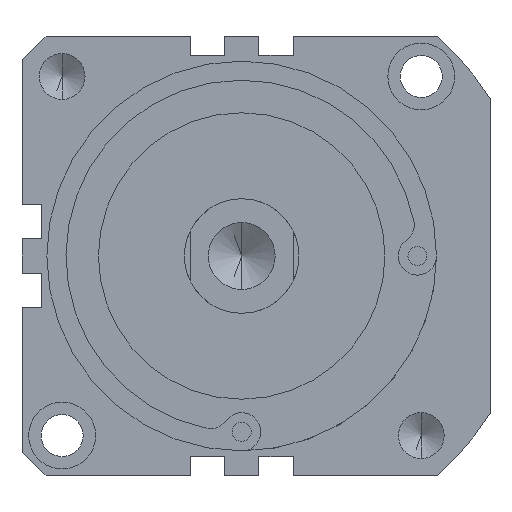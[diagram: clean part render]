
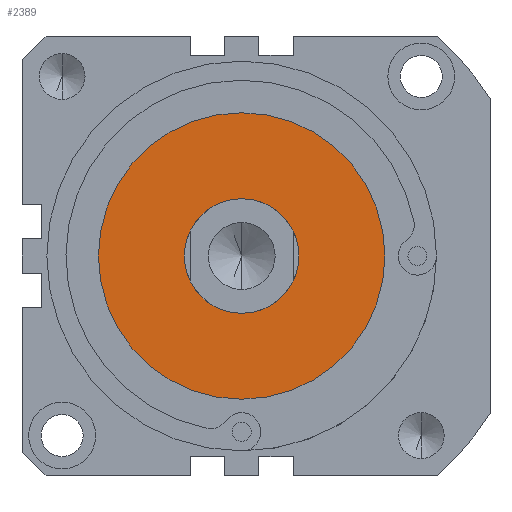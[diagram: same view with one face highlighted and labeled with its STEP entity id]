
A CAD part, front view. The second image highlights one B-rep face of the part: STEP entity #2389.
In plain terms, the highlighted planar face has unit normal (0, -1, 0).
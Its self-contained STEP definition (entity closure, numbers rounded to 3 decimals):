
#17 = AXIS2_PLACEMENT_3D ( 'NONE', #1306, #3268, #310 ) ;
#92 = FACE_BOUND ( 'NONE', #550, .T. ) ;
#186 = EDGE_LOOP ( 'NONE', ( #794, #1832 ) ) ;
#296 = DIRECTION ( 'NONE',  ( 0., 0., 1. ) ) ;
#297 = PLANE ( 'NONE',  #17 ) ;
#310 = DIRECTION ( 'NONE',  ( 0., 0., 1. ) ) ;
#345 = AXIS2_PLACEMENT_3D ( 'NONE', #3523, #1574, #296 ) ;
#460 = VERTEX_POINT ( 'NONE', #657 ) ;
#550 = EDGE_LOOP ( 'NONE', ( #739, #3338 ) ) ;
#657 = CARTESIAN_POINT ( 'NONE',  ( 0., -83., -15. ) ) ;
#739 = ORIENTED_EDGE ( 'NONE', *, *, #2145, .F. ) ;
#794 = ORIENTED_EDGE ( 'NONE', *, *, #3365, .F. ) ;
#1085 = CARTESIAN_POINT ( 'NONE',  ( 0., -83., 0. ) ) ;
#1132 = DIRECTION ( 'NONE',  ( 0., 1., 0. ) ) ;
#1225 = CIRCLE ( 'NONE', #345, 15. ) ;
#1306 = CARTESIAN_POINT ( 'NONE',  ( 0., -83., 0. ) ) ;
#1516 = EDGE_CURVE ( 'NONE', #460, #3282, #1225, .T. ) ;
#1555 = DIRECTION ( 'NONE',  ( 0., 0., 1. ) ) ;
#1574 = DIRECTION ( 'NONE',  ( 0., -1., 0. ) ) ;
#1730 = FACE_OUTER_BOUND ( 'NONE', #186, .T. ) ;
#1773 = CARTESIAN_POINT ( 'NONE',  ( 0., -83., 15. ) ) ;
#1783 = CIRCLE ( 'NONE', #2909, 37.5 ) ;
#1832 = ORIENTED_EDGE ( 'NONE', *, *, #3330, .F. ) ;
#1918 = CARTESIAN_POINT ( 'NONE',  ( 0., -83., 37.5 ) ) ;
#2034 = DIRECTION ( 'NONE',  ( 0., 0., 1. ) ) ;
#2098 = DIRECTION ( 'NONE',  ( 0., 1., 0. ) ) ;
#2145 = EDGE_CURVE ( 'NONE', #3282, #460, #2239, .T. ) ;
#2178 = CARTESIAN_POINT ( 'NONE',  ( 0., -83., -37.5 ) ) ;
#2239 = CIRCLE ( 'NONE', #4139, 15. ) ;
#2389 = ADVANCED_FACE ( 'NONE', ( #1730, #92 ), #297, .F. ) ;
#2831 = AXIS2_PLACEMENT_3D ( 'NONE', #3017, #1132, #3997 ) ;
#2909 = AXIS2_PLACEMENT_3D ( 'NONE', #1085, #2098, #2034 ) ;
#3017 = CARTESIAN_POINT ( 'NONE',  ( 0., -83., 0. ) ) ;
#3180 = CARTESIAN_POINT ( 'NONE',  ( 0., -83., 0. ) ) ;
#3268 = DIRECTION ( 'NONE',  ( 0., 1., 0. ) ) ;
#3282 = VERTEX_POINT ( 'NONE', #1773 ) ;
#3330 = EDGE_CURVE ( 'NONE', #3707, #3548, #1783, .T. ) ;
#3338 = ORIENTED_EDGE ( 'NONE', *, *, #1516, .F. ) ;
#3365 = EDGE_CURVE ( 'NONE', #3548, #3707, #3458, .T. ) ;
#3458 = CIRCLE ( 'NONE', #2831, 37.5 ) ;
#3523 = CARTESIAN_POINT ( 'NONE',  ( 0., -83., 0. ) ) ;
#3535 = DIRECTION ( 'NONE',  ( 0., -1., 0. ) ) ;
#3548 = VERTEX_POINT ( 'NONE', #2178 ) ;
#3707 = VERTEX_POINT ( 'NONE', #1918 ) ;
#3997 = DIRECTION ( 'NONE',  ( 0., 0., 1. ) ) ;
#4139 = AXIS2_PLACEMENT_3D ( 'NONE', #3180, #3535, #1555 ) ;
